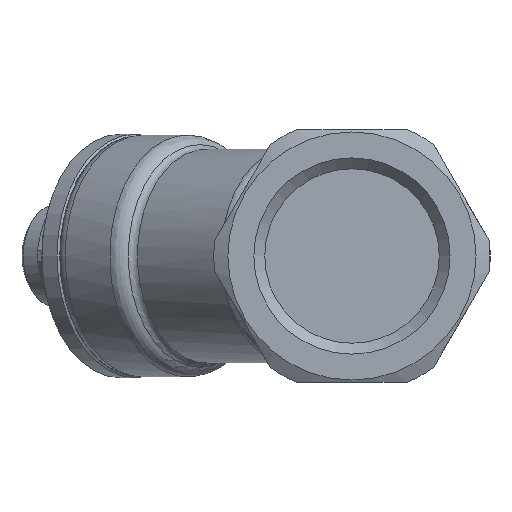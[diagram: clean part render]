
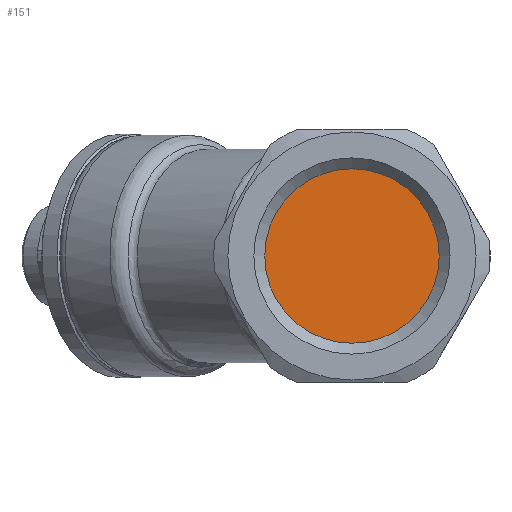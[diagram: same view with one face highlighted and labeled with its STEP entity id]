
A CAD part, left-side view. The second image highlights one B-rep face of the part: STEP entity #151.
In plain terms, the highlighted planar face has unit normal (-1, 0, 0).
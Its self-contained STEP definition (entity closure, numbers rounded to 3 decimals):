
#151 = ADVANCED_FACE( '', ( #341 ), #342, .T. );
#341 = FACE_OUTER_BOUND( '', #572, .T. );
#342 = PLANE( '', #573 );
#572 = EDGE_LOOP( '', ( #948 ) );
#573 = AXIS2_PLACEMENT_3D( '', #949, #950, #951 );
#948 = ORIENTED_EDGE( '', *, *, #1441, .F. );
#949 = CARTESIAN_POINT( '', ( 15., 9.316, 0. ) );
#950 = DIRECTION( '', ( -1., 0., 0. ) );
#951 = DIRECTION( '', ( 0., 0., 1. ) );
#1441 = EDGE_CURVE( '', #1760, #1760, #1761, .T. );
#1760 = VERTEX_POINT( '', #2387 );
#1761 = CIRCLE( '', #2388, 9.316 );
#2387 = CARTESIAN_POINT( '', ( 15., 0., -9.316 ) );
#2388 = AXIS2_PLACEMENT_3D( '', #2940, #2941, #2942 );
#2940 = CARTESIAN_POINT( '', ( 15., 0., 0. ) );
#2941 = DIRECTION( '', ( 1., 0., 0. ) );
#2942 = DIRECTION( '', ( 0., 0., -1. ) );
